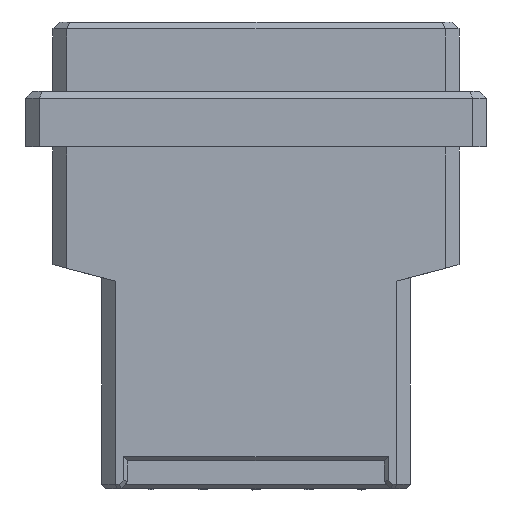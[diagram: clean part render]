
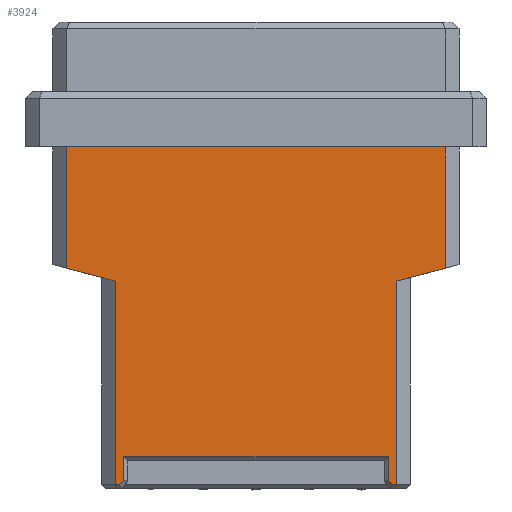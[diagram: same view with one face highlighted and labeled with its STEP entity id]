
A CAD part, front view. The second image highlights one B-rep face of the part: STEP entity #3924.
In plain terms, the highlighted planar face has unit normal (0, -1, 0).
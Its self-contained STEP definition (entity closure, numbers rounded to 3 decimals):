
#340 = FACE_OUTER_BOUND ( 'NONE', #21347, .T. ) ;
#518 = EDGE_CURVE ( 'NONE', #11322, #6414, #18448, .T. ) ;
#637 = DIRECTION ( 'NONE',  ( 0., 0., 1. ) ) ;
#760 = LINE ( 'NONE', #22837, #2826 ) ;
#892 = EDGE_CURVE ( 'NONE', #27317, #20422, #18438, .T. ) ;
#1859 = EDGE_CURVE ( 'NONE', #10570, #18422, #14828, .T. ) ;
#2017 = CARTESIAN_POINT ( 'NONE',  ( -14.62, -4.675, -9. ) ) ;
#2079 = LINE ( 'NONE', #10503, #9610 ) ;
#2124 = EDGE_CURVE ( 'NONE', #5496, #6923, #20672, .T. ) ;
#2620 = ORIENTED_EDGE ( 'NONE', *, *, #892, .T. ) ;
#2826 = VECTOR ( 'NONE', #18614, 1000. ) ;
#3630 = EDGE_CURVE ( 'NONE', #15397, #24188, #2079, .T. ) ;
#3735 = CARTESIAN_POINT ( 'NONE',  ( -9.525, -4.675, -18.4 ) ) ;
#3924 = ADVANCED_FACE ( 'NONE', ( #340 ), #20565, .F. ) ;
#3942 = CARTESIAN_POINT ( 'NONE',  ( -10.12, -4.675, -18.4 ) ) ;
#4381 = CARTESIAN_POINT ( 'NONE',  ( -13.62, -4.675, -17.73 ) ) ;
#4521 = DIRECTION ( 'NONE',  ( -1., 0., 0. ) ) ;
#5427 = DIRECTION ( 'NONE',  ( 0., 1., 0. ) ) ;
#5496 = VERTEX_POINT ( 'NONE', #18386 ) ;
#5715 = EDGE_CURVE ( 'NONE', #6923, #13695, #18127, .T. ) ;
#6019 = CARTESIAN_POINT ( 'NONE',  ( -9.437, -4.675, -32.888 ) ) ;
#6080 = DIRECTION ( 'NONE',  ( 1., 0., 0. ) ) ;
#6195 = DIRECTION ( 'NONE',  ( 0.707, 0., 0.707 ) ) ;
#6414 = VERTEX_POINT ( 'NONE', #21073 ) ;
#6428 = LINE ( 'NONE', #26032, #14597 ) ;
#6469 = VECTOR ( 'NONE', #19987, 1000. ) ;
#6591 = VERTEX_POINT ( 'NONE', #11364 ) ;
#6923 = VERTEX_POINT ( 'NONE', #4381 ) ;
#6929 = CARTESIAN_POINT ( 'NONE',  ( -10.12, -4.675, -18.668 ) ) ;
#7012 = AXIS2_PLACEMENT_3D ( 'NONE', #18374, #5427, #22954 ) ;
#7060 = ORIENTED_EDGE ( 'NONE', *, *, #5715, .T. ) ;
#7250 = CARTESIAN_POINT ( 'NONE',  ( 10.12, -4.675, -18.4 ) ) ;
#7370 = EDGE_CURVE ( 'NONE', #27535, #27317, #21843, .T. ) ;
#8169 = VECTOR ( 'NONE', #14525, 1000. ) ;
#8195 = ORIENTED_EDGE ( 'NONE', *, *, #14057, .T. ) ;
#8644 = DIRECTION ( 'NONE',  ( 0., 0., -1. ) ) ;
#9007 = VECTOR ( 'NONE', #12471, 1000. ) ;
#9032 = VECTOR ( 'NONE', #26753, 1000. ) ;
#9145 = ORIENTED_EDGE ( 'NONE', *, *, #2124, .T. ) ;
#9610 = VECTOR ( 'NONE', #23755, 1000. ) ;
#9683 = EDGE_CURVE ( 'NONE', #18422, #5496, #21510, .T. ) ;
#10155 = VECTOR ( 'NONE', #6080, 1000. ) ;
#10239 = LINE ( 'NONE', #13214, #14340 ) ;
#10424 = DIRECTION ( 'NONE',  ( 0., 0., -1. ) ) ;
#10449 = CARTESIAN_POINT ( 'NONE',  ( -13.62, -4.675, -18.4 ) ) ;
#10473 = VERTEX_POINT ( 'NONE', #15073 ) ;
#10503 = CARTESIAN_POINT ( 'NONE',  ( -14.62, -4.675, -33.3 ) ) ;
#10570 = VERTEX_POINT ( 'NONE', #21832 ) ;
#11294 = DIRECTION ( 'NONE',  ( 0.966, 0., 0.259 ) ) ;
#11322 = VERTEX_POINT ( 'NONE', #25843 ) ;
#11332 = LINE ( 'NONE', #25014, #20941 ) ;
#11364 = CARTESIAN_POINT ( 'NONE',  ( 9.525, -4.675, -31.3 ) ) ;
#11377 = ORIENTED_EDGE ( 'NONE', *, *, #19958, .T. ) ;
#12471 = DIRECTION ( 'NONE',  ( 0., 0., -1. ) ) ;
#12558 = ORIENTED_EDGE ( 'NONE', *, *, #21694, .T. ) ;
#13214 = CARTESIAN_POINT ( 'NONE',  ( -12.896, -4.675, -24.835 ) ) ;
#13695 = VERTEX_POINT ( 'NONE', #6929 ) ;
#14011 = VECTOR ( 'NONE', #6195, 1000. ) ;
#14057 = EDGE_CURVE ( 'NONE', #13695, #15397, #27570, .T. ) ;
#14340 = VECTOR ( 'NONE', #11294, 1000. ) ;
#14525 = DIRECTION ( 'NONE',  ( 0., 0., 1. ) ) ;
#14597 = VECTOR ( 'NONE', #10424, 1000. ) ;
#14828 = LINE ( 'NONE', #22289, #9032 ) ;
#15073 = CARTESIAN_POINT ( 'NONE',  ( 9.525, -4.675, -32.976 ) ) ;
#15397 = VERTEX_POINT ( 'NONE', #21390 ) ;
#15613 = ORIENTED_EDGE ( 'NONE', *, *, #19579, .T. ) ;
#15895 = ORIENTED_EDGE ( 'NONE', *, *, #1859, .T. ) ;
#16023 = DIRECTION ( 'NONE',  ( 0.707, 0., -0.707 ) ) ;
#16348 = VECTOR ( 'NONE', #4521, 1000. ) ;
#16926 = CARTESIAN_POINT ( 'NONE',  ( 9.849, -4.675, -33.3 ) ) ;
#17241 = ORIENTED_EDGE ( 'NONE', *, *, #9683, .T. ) ;
#17620 = CARTESIAN_POINT ( 'NONE',  ( -9.849, -4.675, -33.3 ) ) ;
#17831 = LINE ( 'NONE', #6019, #14011 ) ;
#18127 = LINE ( 'NONE', #26661, #6469 ) ;
#18149 = ORIENTED_EDGE ( 'NONE', *, *, #24849, .T. ) ;
#18374 = CARTESIAN_POINT ( 'NONE',  ( -14.62, -4.675, -18.4 ) ) ;
#18386 = CARTESIAN_POINT ( 'NONE',  ( -13.62, -4.675, -9. ) ) ;
#18422 = VERTEX_POINT ( 'NONE', #18543 ) ;
#18438 = LINE ( 'NONE', #7250, #27405 ) ;
#18448 = LINE ( 'NONE', #3735, #8169 ) ;
#18528 = ORIENTED_EDGE ( 'NONE', *, *, #3630, .T. ) ;
#18543 = CARTESIAN_POINT ( 'NONE',  ( 13.62, -4.675, -9. ) ) ;
#18614 = DIRECTION ( 'NONE',  ( 1., 0., 0. ) ) ;
#18858 = ORIENTED_EDGE ( 'NONE', *, *, #7370, .T. ) ;
#18933 = VECTOR ( 'NONE', #8644, 1000. ) ;
#19579 = EDGE_CURVE ( 'NONE', #24188, #11322, #17831, .T. ) ;
#19958 = EDGE_CURVE ( 'NONE', #20422, #10570, #10239, .T. ) ;
#19987 = DIRECTION ( 'NONE',  ( 0.966, 0., -0.259 ) ) ;
#20422 = VERTEX_POINT ( 'NONE', #26692 ) ;
#20565 = PLANE ( 'NONE',  #7012 ) ;
#20672 = LINE ( 'NONE', #10449, #9007 ) ;
#20941 = VECTOR ( 'NONE', #16023, 1000. ) ;
#21073 = CARTESIAN_POINT ( 'NONE',  ( -9.525, -4.675, -31.3 ) ) ;
#21255 = ORIENTED_EDGE ( 'NONE', *, *, #27830, .T. ) ;
#21347 = EDGE_LOOP ( 'NONE', ( #8195, #18528, #15613, #22625, #18149, #12558, #21255, #18858, #2620, #11377, #15895, #17241, #9145, #7060 ) ) ;
#21390 = CARTESIAN_POINT ( 'NONE',  ( -10.12, -4.675, -33.3 ) ) ;
#21510 = LINE ( 'NONE', #2017, #16348 ) ;
#21694 = EDGE_CURVE ( 'NONE', #6591, #10473, #6428, .T. ) ;
#21832 = CARTESIAN_POINT ( 'NONE',  ( 13.62, -4.675, -17.73 ) ) ;
#21843 = LINE ( 'NONE', #23615, #10155 ) ;
#22289 = CARTESIAN_POINT ( 'NONE',  ( 13.62, -4.675, -18.4 ) ) ;
#22625 = ORIENTED_EDGE ( 'NONE', *, *, #518, .T. ) ;
#22837 = CARTESIAN_POINT ( 'NONE',  ( -14.62, -4.675, -31.3 ) ) ;
#22954 = DIRECTION ( 'NONE',  ( 0., 0., 1. ) ) ;
#23615 = CARTESIAN_POINT ( 'NONE',  ( -14.62, -4.675, -33.3 ) ) ;
#23755 = DIRECTION ( 'NONE',  ( 1., 0., 0. ) ) ;
#24188 = VERTEX_POINT ( 'NONE', #17620 ) ;
#24849 = EDGE_CURVE ( 'NONE', #6414, #6591, #760, .T. ) ;
#25014 = CARTESIAN_POINT ( 'NONE',  ( 9.937, -4.675, -33.388 ) ) ;
#25843 = CARTESIAN_POINT ( 'NONE',  ( -9.525, -4.675, -32.976 ) ) ;
#26032 = CARTESIAN_POINT ( 'NONE',  ( 9.525, -4.675, -18.4 ) ) ;
#26120 = CARTESIAN_POINT ( 'NONE',  ( 10.12, -4.675, -33.3 ) ) ;
#26661 = CARTESIAN_POINT ( 'NONE',  ( -14.386, -4.675, -17.525 ) ) ;
#26692 = CARTESIAN_POINT ( 'NONE',  ( 10.12, -4.675, -18.668 ) ) ;
#26753 = DIRECTION ( 'NONE',  ( 0., 0., 1. ) ) ;
#27317 = VERTEX_POINT ( 'NONE', #26120 ) ;
#27405 = VECTOR ( 'NONE', #637, 1000. ) ;
#27535 = VERTEX_POINT ( 'NONE', #16926 ) ;
#27570 = LINE ( 'NONE', #3942, #18933 ) ;
#27830 = EDGE_CURVE ( 'NONE', #10473, #27535, #11332, .T. ) ;
